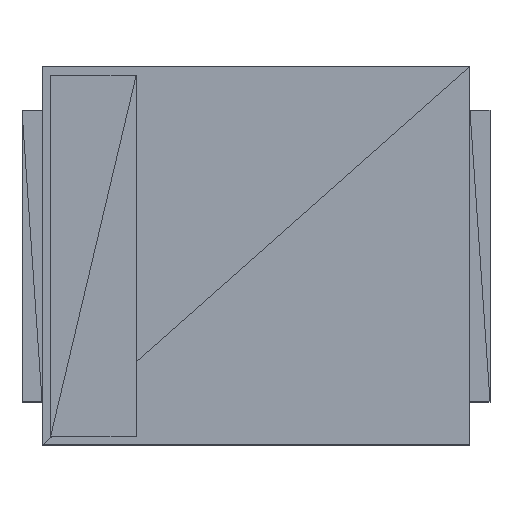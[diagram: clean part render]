
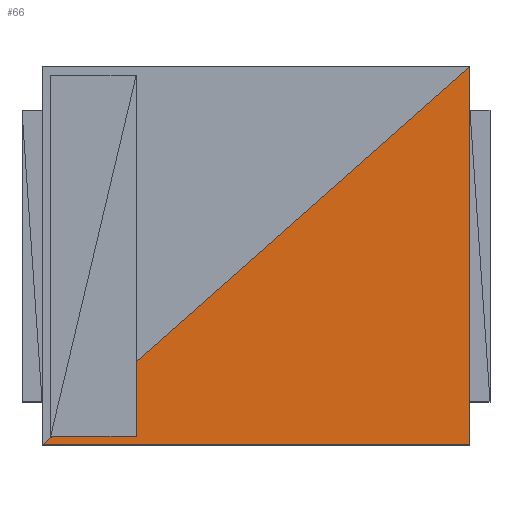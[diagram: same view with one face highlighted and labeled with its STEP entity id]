
A CAD part, top view. The second image highlights one B-rep face of the part: STEP entity #66.
In plain terms, the highlighted planar face has unit normal (0, 0, 1).
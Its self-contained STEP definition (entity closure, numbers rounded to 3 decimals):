
#66=ADVANCED_FACE('',(#67),#93,.F.);
#67=FACE_OUTER_BOUND('',#68,.T.);
#68=EDGE_LOOP('',(#69,#71,#73));
#69=ORIENTED_EDGE('',*,*,#70,.T.);
#70=EDGE_CURVE('',#75,#77,#79,.T.);
#71=ORIENTED_EDGE('',*,*,#72,.T.);
#72=EDGE_CURVE('',#77,#83,#85,.T.);
#73=ORIENTED_EDGE('',*,*,#74,.T.);
#74=EDGE_CURVE('',#83,#75,#89,.T.);
#75=VERTEX_POINT('',#76);
#76=CARTESIAN_POINT('',(1.695,1.499,2.108));
#77=VERTEX_POINT('',#78);
#78=CARTESIAN_POINT('',(1.695,-1.499,2.108));
#79=LINE('',#80,#81);
#80=CARTESIAN_POINT('',(1.695,1.499,2.108));
#81=VECTOR('',#82,1.0);
#82=DIRECTION('',(0.0,1.0,0.0));
#83=VERTEX_POINT('',#84);
#84=CARTESIAN_POINT('',(-1.695,-1.499,2.108));
#85=LINE('',#86,#87);
#86=CARTESIAN_POINT('',(1.695,-1.499,2.108));
#87=VECTOR('',#88,1.0);
#88=DIRECTION('',(1.0,0.0,0.0));
#89=LINE('',#90,#91);
#90=CARTESIAN_POINT('',(-1.695,-1.499,2.108));
#91=VECTOR('',#92,1.0);
#92=DIRECTION('',(-0.749,-0.662,0.0));
#93=PLANE('',#94);
#94=AXIS2_PLACEMENT_3D('',#95,#96,#97);
#95=CARTESIAN_POINT('',(1.695,-1.499,2.108));
#96=DIRECTION('',(0.0,0.0,-1.0));
#97=DIRECTION('',(0.749,0.662,0.0));
